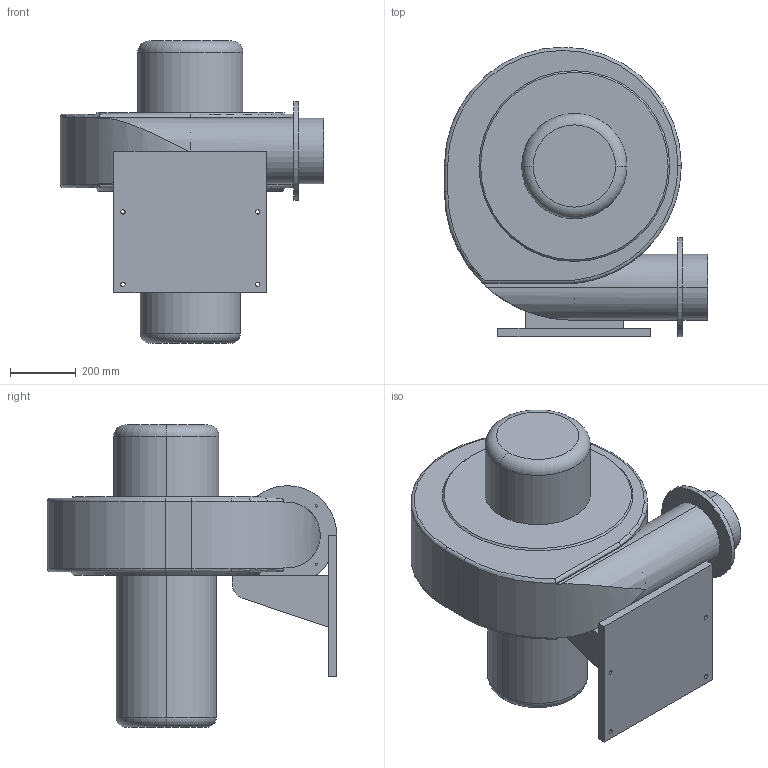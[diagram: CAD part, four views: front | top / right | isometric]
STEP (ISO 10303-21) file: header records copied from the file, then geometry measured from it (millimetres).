
FILE_DESCRIPTION (( 'STEP AP203' ), '1' );
FILE_NAME ('TB-11000.STEP', '2019-05-09T03:38:19', ( 'User' ), ( 'www.dadighost.com' ), 'SwSTEP 2.0', 'SolidWorks 2014', '' );
FILE_SCHEMA (( 'CONFIG_CONTROL_DESIGN' ));
Length unit declared in the file: millimetre
Products named in the file (1): TB-11000
Bounding box: 800 x 879.71 x 919 mm (x, y, z)
Volume: 169289749.1 mm3; surface area: 3163466.6 mm2
Topology: 1 solids, 1 shells, 78 faces, 187 edges, 119 vertices
Faces by surface type: cylinder 36, plane 26, torus 12, cone 4
Entity records: 2817 total; most frequent: CARTESIAN_POINT 825, DIRECTION 430, ORIENTED_EDGE 374, EDGE_CURVE 187, AXIS2_PLACEMENT_3D 176, VERTEX_POINT 119, EDGE_LOOP 102, CIRCLE 97
